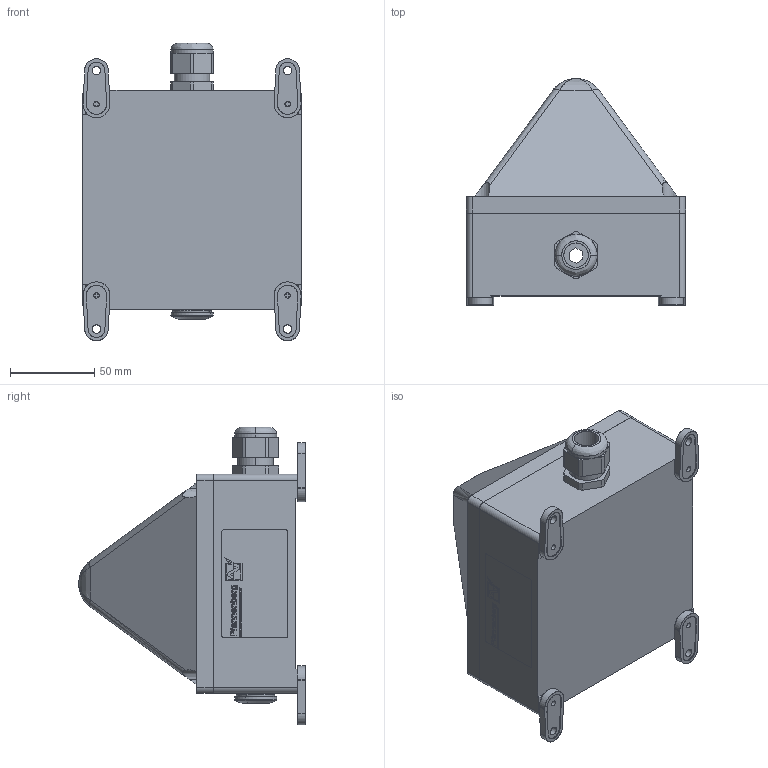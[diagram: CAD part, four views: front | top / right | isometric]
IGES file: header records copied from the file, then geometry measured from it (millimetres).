
Start section: SolidWorks IGES file using analytic representation for surfaces
Global section: file name: L:\3D Volumenmodelle\Quadro\Quadro-R\Quadro-R.IGS; native system: SolidWorks 2011; preprocessor: SolidWorks 2011; author: MMark; date: 110601.131327; units: millimetre
Bounding box: 130.14 x 134.5 x 176.75 mm (x, y, z)
Surface area: 91068.7 mm2 (no closed solid volume)
Topology: 0 solids, 0 shells, 379 faces, 7621 edges, 7617 vertices
Faces by surface type: bspline 261, revolution 118
